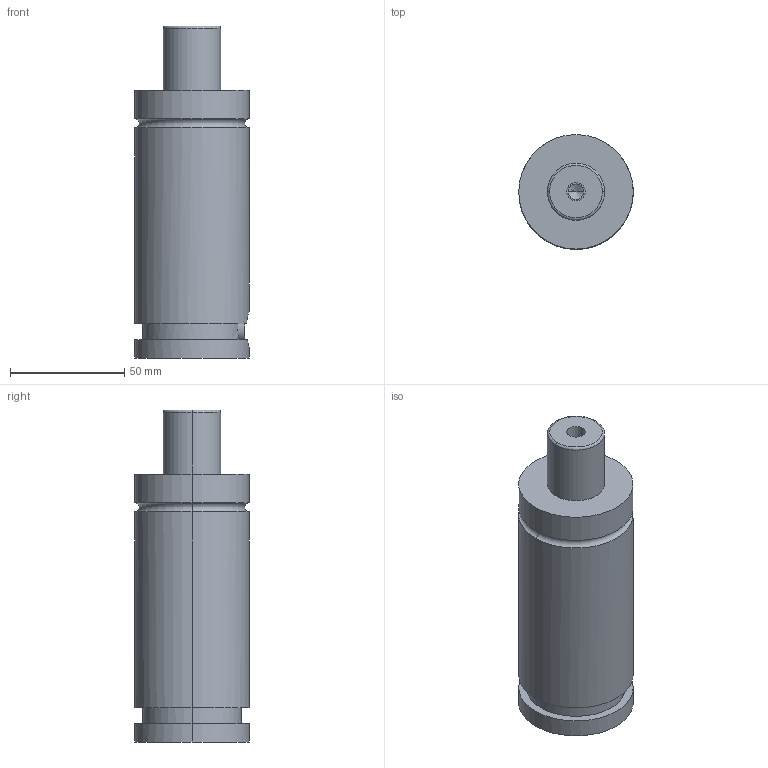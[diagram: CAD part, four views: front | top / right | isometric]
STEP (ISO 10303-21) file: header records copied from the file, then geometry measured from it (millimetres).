
FILE_DESCRIPTION(/* description */ (''),/* implementation_level */ '2;1');
FILE_NAME(/* name */ '3d_gse50-25_03848_r00.stp',/* time_stamp */ '2011-01-10T14:15:19+09:00',/* author */ ('MISUMI'),/* organization */ (''),/* preprocessor_version */ 'ST-DEVELOPER v11',/* originating_system */ 'UGS - NX 5.0',/* authorisation */ '');
FILE_SCHEMA (('CONFIG_CONTROL_DESIGN'));
Length unit declared in the file: millimetre
Products named in the file (1): 3d_gse50-25_03848_r00
Bounding box: 50 x 50 x 145 mm (x, y, z)
Volume: 236415.1 mm3; surface area: 27020.1 mm2
Topology: 1 solids, 1 shells, 57 faces, 125 edges, 79 vertices
Faces by surface type: cylinder 26, plane 21, cone 6, torus 4
Entity records: 1669 total; most frequent: DIRECTION 297, CARTESIAN_POINT 286, ORIENTED_EDGE 246, EDGE_CURVE 123, AXIS2_PLACEMENT_3D 122, VERTEX_POINT 79, EDGE_LOOP 68, CIRCLE 64
